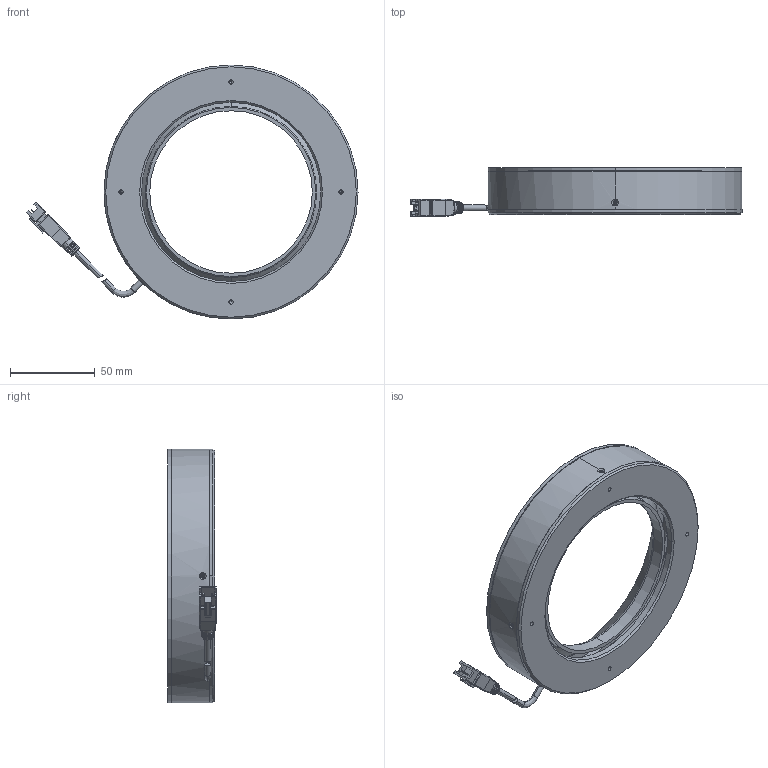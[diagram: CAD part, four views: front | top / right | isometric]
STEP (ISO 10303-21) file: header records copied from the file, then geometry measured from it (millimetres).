
FILE_DESCRIPTION (( 'STEP AP203' ), '1' );
FILE_NAME ('P-RL-150-45-00.STEP', '2026-03-13T08:47:01', ( '' ), ( '' ), 'SwSTEP 2.0', 'SolidWorks 2022', '' );
FILE_SCHEMA (( 'CONFIG_CONTROL_DESIGN' ));
Length unit declared in the file: millimetre
Products named in the file (6): P-RL-150-45-002; P-RL-150-45; P-RL-150-45-001; P-RL-150-45-00; 光源线; 15045灯珠-00
Assembly tree (5 placements, depth 2):
  P-RL-150-45-00
    P-RL-150-45
    P-RL-150-45-001
    P-RL-150-45-002
    15045灯珠-00
    光源线
Bounding box: 196.15 x 28.71 x 150 mm (x, y, z)
Volume: 127223.7 mm3; surface area: 101802.3 mm2
Topology: 7 solids, 7 shells, 400 faces, 981 edges, 586 vertices
Faces by surface type: cylinder 141, plane 140, cone 59, torus 40, bspline 20
Entity records: 13391 total; most frequent: CARTESIAN_POINT 3485, DIRECTION 1979, ORIENTED_EDGE 1906, EDGE_CURVE 953, AXIS2_PLACEMENT_3D 754, VERTEX_POINT 586, LINE 471, VECTOR 471
